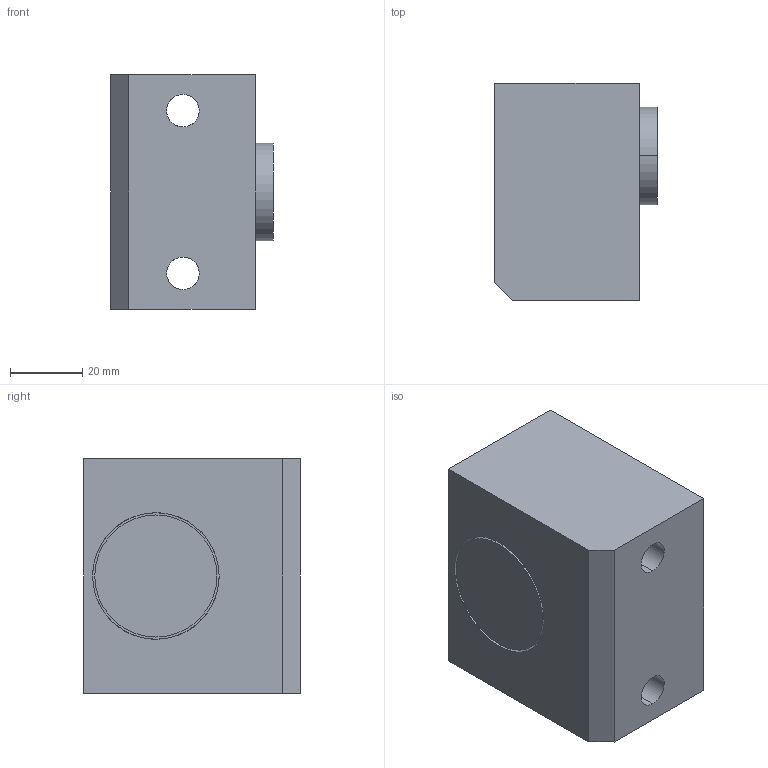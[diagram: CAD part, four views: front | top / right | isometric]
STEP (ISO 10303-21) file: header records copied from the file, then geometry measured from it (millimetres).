
FILE_DESCRIPTION(('CATIA V5 STEP Exchange'),'2;1');
FILE_NAME('C:\Users\Raffaele\Desktop\3D X SITO CF\751\GSB_OILLESS_M30904040065\STEP-2.03\751-040065.stp','2019-07-04T06:48:18+00:00',('none'),('none'),'CATIA Version 5 Release 20 GA (IN-10)','CATIA V5 STEP AP203','none');
FILE_SCHEMA(('CONFIG_CONTROL_DESIGN'));
Length unit declared in the file: millimetre
Products named in the file (1): 751-040065
Bounding box: 45 x 60 x 65 mm (x, y, z)
Volume: 144050.2 mm3; surface area: 29205.4 mm2
Topology: 1 solids, 1 shells, 29 faces, 95 edges, 74 vertices
Faces by surface type: cylinder 16, plane 13
Entity records: 1391 total; most frequent: CARTESIAN_POINT 523, ORIENTED_EDGE 190, DIRECTION 129, EDGE_CURVE 95, VERTEX_POINT 74, AXIS2_PLACEMENT_3D 70, CIRCLE 40, EDGE_LOOP 39
